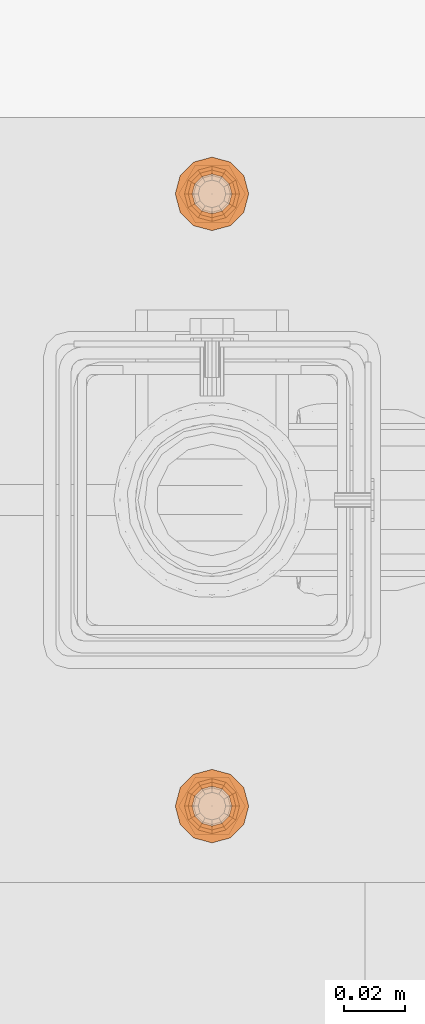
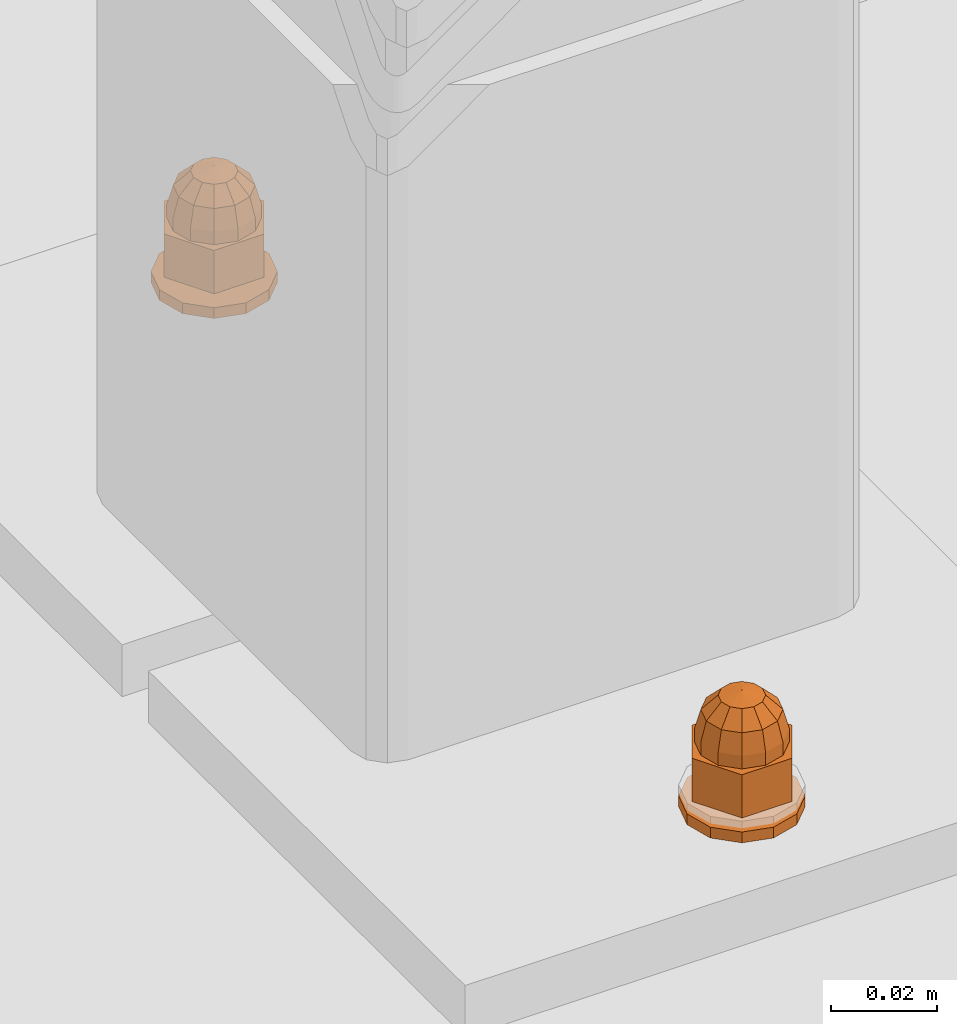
# One storey, part 132 of 162: 4 proxies.
"""IFC2X3 building model written with IfcOpenShell, lengths in millimetres."""

import ifcopenshell
import ifcopenshell.guid

model = None  # the IFC model being written
_history = None  # IfcOwnerHistory: only IFC2X3 demands one
_inside = {}  # id of a spatial element -> (the spatial element, [elements in it])
_under = {}  # id of a project, library or spatial element -> (it, [spatial elements below it])
_declared = {}  # id of a project -> (the project, [libraries it declares])
_typed = {}  # id of a type object -> (the type object, [elements of that type])
_made_of = {}  # id of a material, layer set ... -> (it, [elements and type objects made of it])


def new_model(schema):
    """Start an empty IFC model of exactly this schema.

    Asked for "IFC4X3", IfcOpenShell would pick the latest addendum, in which some entities
    have other attributes; the version numbers below select the first issue.
    IFC2X3 requires an IfcOwnerHistory on every rooted entity: one is made here for all.
    """
    global model, _history
    if schema == "IFC4X3":
        model = ifcopenshell.file(schema_version=(4, 3, 0, 0))
    else:
        model = ifcopenshell.file(schema=schema)
    _inside.clear()
    _under.clear()
    _declared.clear()
    _typed.clear()
    _made_of.clear()
    _history = None
    if model.schema == "IFC2X3":
        org = make("IfcOrganization", Name="unknown")
        user = make(
            "IfcPersonAndOrganization",
            ThePerson=make("IfcPerson", FamilyName="unknown"),
            TheOrganization=org,
        )
        app = make(
            "IfcApplication",
            ApplicationDeveloper=org,
            Version="unknown",
            ApplicationFullName="unknown",
            ApplicationIdentifier="unknown",
        )
        _history = make(
            "IfcOwnerHistory",
            OwningUser=user,
            OwningApplication=app,
            ChangeAction="ADDED",
            CreationDate=0,
        )
    return model


def make(cls, **values):
    """One entity of the class cls with the attributes given. An attribute that is None is left unset."""
    return model.create_entity(
        cls, **{name: value for name, value in values.items() if value is not None}
    )


def entity(cls, *values):
    """Any entity or typed value of the class cls, its attributes in the order of the schema. None: left unset."""
    e = model.create_entity(cls)
    for i, value in enumerate(values):
        if value is not None:
            e[i] = value
    return e


def rooted(cls, **values):
    """An entity with a GlobalId (a new one), such as an element, a storey or a relation."""
    return make(cls, GlobalId=ifcopenshell.guid.new(), OwnerHistory=_history, **values)


def si_unit(unit_type, name, prefix=None):
    """IfcSIUnit, for example si_unit("LENGTHUNIT", "METRE", prefix="MILLI")."""
    return make("IfcSIUnit", UnitType=unit_type, Prefix=prefix, Name=name)


def converted_unit(unit_type, name, factor, base, dimensions=None, offset=None):
    """IfcConversionBasedUnit, such as the inch: factor (a typed value) times the base unit."""
    return make(
        "IfcConversionBasedUnit"
        if offset is None
        else "IfcConversionBasedUnitWithOffset",
        ConversionOffset=offset,
        Dimensions=None
        if dimensions is None
        else entity("IfcDimensionalExponents", *dimensions),
        UnitType=unit_type,
        Name=name,
        ConversionFactor=make(
            "IfcMeasureWithUnit", ValueComponent=factor, UnitComponent=base
        ),
    )


def assignment(units):
    """IfcUnitAssignment: the units of a project."""
    return None if units is None else make("IfcUnitAssignment", Units=units)


def point(xyz):
    """IfcCartesianPoint."""
    return None if xyz is None else make("IfcCartesianPoint", Coordinates=xyz)


def direction(xyz):
    """IfcDirection."""
    return None if xyz is None else make("IfcDirection", DirectionRatios=xyz)


def frame(location, z_axis=None, x_axis=None):
    """IfcAxis2Placement3D, a coordinate frame: its origin and axes. An axis left out is left unset."""
    return make(
        "IfcAxis2Placement3D",
        Location=point(location),
        Axis=direction(z_axis),
        RefDirection=direction(x_axis),
    )


def origin_with_axes():
    """The frame at (0, 0, 0) with the z axis (0, 0, 1) and the x axis (1, 0, 0) written out."""
    return frame((0.0, 0.0, 0.0), z_axis=(0.0, 0.0, 1.0), x_axis=(1.0, 0.0, 0.0))


def place(relative_to, where):
    """IfcLocalPlacement: puts the frame where relative to a parent placement (None: the world)."""
    return make(
        "IfcLocalPlacement", PlacementRelTo=relative_to, RelativePlacement=where
    )


def context(
    kind, dimensions, precision=None, world=None, true_north=None, identifier=None
):
    """IfcGeometricRepresentationContext, for example the 3D "Model" context."""
    return make(
        "IfcGeometricRepresentationContext",
        ContextIdentifier=identifier,
        ContextType=kind,
        CoordinateSpaceDimension=dimensions,
        Precision=precision,
        WorldCoordinateSystem=world,
        TrueNorth=true_north,
    )


def project(units=None, contexts=None):
    """IfcProject with its units and contexts."""
    return rooted(
        "IfcProject",
        Name="project",
        RepresentationContexts=contexts,
        UnitsInContext=assignment(units),
    )


def spatial(cls, under=None, at=None, **own):
    """A site, building, storey or space (cls), placed at a placement, below another one or the project."""
    s = rooted(cls, ObjectPlacement=at, **own)
    if under is not None:
        _under.setdefault(under.id(), (under, []))[1].append(s)
    return s


def faces_of(points, faces, orient=None, outer=None):
    """IfcFace entities. A face is a list of loops; a loop is a list of indices into points, from 0.

    orient and outer hold one flag for each loop. By default every Orientation is true, the
    first loop of a face is its IfcFaceOuterBound and the others are IfcFaceBound.
    """
    made = []
    for i, loops in enumerate(faces):
        bounds = []
        for j, loop in enumerate(loops):
            is_outer = j == 0 if outer is None else outer[i][j]
            bounds.append(
                make(
                    "IfcFaceOuterBound" if is_outer else "IfcFaceBound",
                    Bound=make("IfcPolyLoop", Polygon=[points[k] for k in loop]),
                    Orientation=True if orient is None else orient[i][j],
                )
            )
        made.append(make("IfcFace", Bounds=bounds))
    return made


def faceted_brep(points, faces, orient=None, outer=None, voids=None):
    """IfcFacetedBrep: a solid bounded by flat faces; with voids (closed shells), ...WithVoids."""
    shared = [point(p) for p in points]
    hull = make("IfcClosedShell", CfsFaces=faces_of(shared, faces, orient, outer))
    if voids is None:
        return make("IfcFacetedBrep", Outer=hull)
    return make(
        "IfcFacetedBrepWithVoids",
        Outer=hull,
        Voids=[
            make(cls, CfsFaces=faces_of(shared, fs, o, b)) for cls, fs, o, b in voids
        ],
    )


def shape(context_of_items, identifier, shape_type, items):
    """IfcShapeRepresentation: the items that make up one representation, for example the "Body"."""
    return make(
        "IfcShapeRepresentation",
        ContextOfItems=context_of_items,
        RepresentationIdentifier=identifier,
        RepresentationType=shape_type,
        Items=items,
    )


def material(Name=None, Category=None):
    """IfcMaterial."""
    return make("IfcMaterial", Name=Name, Category=Category)


def made_of(thing, what):
    """Note that an element or type object is made of a material, layer set ...; save() writes the relation."""
    if what is not None:
        _made_of.setdefault(what.id(), (what, []))[1].append(thing)
    return thing


def element(
    cls,
    number,
    at=None,
    inside=None,
    cuts=None,
    type_object=None,
    material=None,
    context=None,
    identifier="Body",
    shape_type=None,
    held_by="IfcProductDefinitionShape",
    body=None,
    shapes=None,
    **own,
):
    """One element of the class cls, such as IfcWall. Its Tag is "e" and its number.

    at: its placement. inside: the storey or other place that contains it. cuts: it is an
    opening in that element (IfcRelVoidsElement). A single representation is given by context,
    identifier, shape_type and body (its items); several are given by shapes. held_by: the class
    of the entity that holds the representations. save() writes the other relations.
    """
    e = rooted(cls, Tag="e%d" % number, ObjectPlacement=at, **own)
    if body is not None:
        shapes = [shape(context, identifier, shape_type, body)]
    if shapes is not None:
        e.Representation = make(held_by, Representations=shapes)
    if inside is not None:
        _inside.setdefault(inside.id(), (inside, []))[1].append(e)
    if cuts is not None:
        rooted(
            "IfcRelVoidsElement", RelatingBuildingElement=cuts, RelatedOpeningElement=e
        )
    if type_object is not None:
        _typed.setdefault(type_object.id(), (type_object, []))[1].append(e)
    return made_of(e, material)


def aggregate(whole, parts):
    """IfcRelAggregates: a whole, such as a stair, and the parts it consists of."""
    return rooted("IfcRelAggregates", RelatingObject=whole, RelatedObjects=parts)


def save(model, path):
    """Write the relations noted so far, then the file.

    IfcRelAggregates (storeys below a building ...), IfcRelContainedInSpatialStructure (elements
    in a storey), IfcRelDefinesByType, IfcRelAssociatesMaterial and IfcRelDeclares: one each for
    every whole, place, type object, material and project.
    """
    for whole, parts in _under.values():
        aggregate(whole, parts)
    for where, things in _inside.values():
        rooted(
            "IfcRelContainedInSpatialStructure",
            RelatedElements=things,
            RelatingStructure=where,
        )
    for kind, things in _typed.values():
        rooted("IfcRelDefinesByType", RelatedObjects=things, RelatingType=kind)
    for what, things in _made_of.values():
        rooted("IfcRelAssociatesMaterial", RelatedObjects=things, RelatingMaterial=what)
    for by, libraries in _declared.values():
        rooted("IfcRelDeclares", RelatingContext=by, RelatedDefinitions=libraries)
    model.write(path)


model = new_model("IFC2X3")

# Units and contexts
model_context = context("Model", 3, precision=1e-09, world=origin_with_axes())
ifc_project = project(units=[si_unit("LENGTHUNIT", "METRE", prefix="MILLI"), si_unit("AREAUNIT", "SQUARE_METRE"), si_unit("VOLUMEUNIT", "CUBIC_METRE"), converted_unit("PLANEANGLEUNIT", "DEGREE", entity("IfcPlaneAngleMeasure", 0.01745329), si_unit("PLANEANGLEUNIT", "RADIAN"), dimensions=[0, 0, 0, 0, 0, 0, 0])], contexts=[model_context])

# Site, building, storey
site_placement = place(None, origin_with_axes())
site = spatial("IfcSite", under=ifc_project, at=site_placement, Name="Hermannstra?e 1a, 60318 Frankfurt", CompositionType="ELEMENT")
building_placement = place(site_placement, origin_with_axes())
building = spatial("IfcBuilding", under=site, at=building_placement, Name="Struktur 1", CompositionType="ELEMENT")
storey_placement = place(building_placement, origin_with_axes())
storey = spatial("IfcBuildingStorey", under=building, at=storey_placement, Name="Default Storey", CompositionType="ELEMENT", Elevation=0.0)

# Proxies
ifc_material = material(Name="Kein")
proxy_1_placement = place(None, origin_with_axes())
element("IfcBuildingElementProxy", 1, at=proxy_1_placement, inside=storey, material=ifc_material, ObjectType="-", context=model_context, shape_type="Brep", body=[
    faceted_brep([(5473.30936482, 1624.609373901, -93.0), (5473.30936482, 1624.609373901, -83.0), (5476.30936482, 1625.413221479, -83.0), (5476.30936482, 1625.413221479, -93.0), (5478.505517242, 1627.609373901, -83.0), (5478.505517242, 1627.609373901, -93.0), (5470.30936482, 1625.413221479, -93.0), (5470.30936482, 1625.413221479, -83.0), (5467.836159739, 1621.129504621, -93.0), (5462.362954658, 1630.609373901, -93.0), (5467.836159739, 1640.089243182, -93.0), (5478.7825699, 1640.089243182, -93.0), (5484.255774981, 1630.609373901, -93.0), (5478.7825699, 1621.129504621, -93.0), (5468.113212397, 1627.609373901, -93.0), (5479.30936482, 1630.609373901, -93.0), (5478.505517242, 1633.609373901, -93.0), (5476.30936482, 1635.805526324, -93.0), (5473.30936482, 1636.609373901, -93.0), (5470.30936482, 1635.805526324, -93.0), (5468.113212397, 1633.609373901, -93.0), (5467.30936482, 1630.609373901, -93.0), (5462.362954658, 1630.609373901, -83.0), (5467.836159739, 1621.129504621, -83.0), (5478.7825699, 1621.129504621, -83.0), (5484.255774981, 1630.609373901, -83.0), (5478.7825699, 1640.089243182, -83.0), (5467.836159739, 1640.089243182, -83.0), (5468.113212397, 1627.609373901, -83.0), (5467.30936482, 1630.609373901, -83.0), (5468.113212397, 1633.609373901, -83.0), (5470.30936482, 1635.805526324, -83.0), (5473.30936482, 1636.609373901, -83.0), (5476.30936482, 1635.805526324, -83.0), (5478.505517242, 1633.609373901, -83.0), (5479.30936482, 1630.609373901, -83.0)], [[[0, 1, 2, 3]], [[3, 2, 4, 5]], [[1, 0, 6, 7]], [[8, 9, 10, 11, 12, 13], [14, 6, 0, 3, 5, 15, 16, 17, 18, 19, 20, 21]], [[22, 23, 24, 25, 26, 27], [1, 7, 28, 29, 30, 31, 32, 33, 34, 35, 4, 2]], [[7, 6, 14, 28]], [[24, 23, 8, 13]], [[5, 4, 35, 15]], [[13, 12, 25, 24]], [[28, 14, 21, 29]], [[23, 22, 9, 8]], [[15, 35, 34, 16]], [[12, 11, 26, 25]], [[29, 21, 20, 30]], [[22, 27, 10, 9]], [[16, 34, 33, 17]], [[27, 26, 11, 10]], [[30, 20, 19, 31]], [[17, 33, 32, 18]], [[31, 19, 18, 32]]]),
    faceted_brep([(5464.30936482, 1630.609373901, -83.0), (5464.30936482, 1630.609373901, -80.0), (5465.515136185, 1635.109373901, -80.0), (5465.515136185, 1635.109373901, -83.0), (5465.515136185, 1626.109373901, -83.0), (5465.515136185, 1626.109373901, -80.0), (5477.80936482, 1622.815145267, -80.0), (5481.103593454, 1626.109373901, -80.0), (5482.30936482, 1630.609373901, -80.0), (5481.103593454, 1635.109373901, -80.0), (5477.80936482, 1638.403602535, -80.0), (5473.30936482, 1639.609373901, -80.0), (5468.80936482, 1638.403602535, -80.0), (5468.80936482, 1622.815145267, -80.0), (5473.30936482, 1621.609373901, -80.0), (5477.80936482, 1638.403602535, -83.0), (5481.103593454, 1635.109373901, -83.0), (5482.30936482, 1630.609373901, -83.0), (5481.103593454, 1626.109373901, -83.0), (5477.80936482, 1622.815145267, -83.0), (5473.30936482, 1621.609373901, -83.0), (5468.80936482, 1622.815145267, -83.0), (5468.80936482, 1638.403602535, -83.0), (5473.30936482, 1639.609373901, -83.0)], [[[0, 1, 2, 3]], [[1, 0, 4, 5]], [[6, 7, 8, 9, 10, 11, 12, 2, 1, 5, 13, 14]], [[15, 16, 17, 18, 19, 20, 21, 4, 0, 3, 22, 23]], [[3, 2, 12, 22]], [[5, 4, 21, 13]], [[22, 12, 11, 23]], [[13, 21, 20, 14]], [[7, 18, 17, 8]], [[19, 6, 14, 20]], [[18, 7, 6, 19]], [[23, 11, 10, 15]], [[8, 17, 16, 9]], [[15, 10, 9, 16]]]),
    faceted_brep([(5468.80936482, 1622.815145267, -80.0), (5469.412250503, 1623.859373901, -75.5), (5466.55936482, 1626.712259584, -75.5), (5465.515136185, 1626.109373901, -80.0), (5477.80936482, 1638.403602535, -80.0), (5481.103593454, 1635.109373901, -80.0), (5482.30936482, 1630.609373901, -80.0), (5481.103593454, 1626.109373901, -80.0), (5477.80936482, 1622.815145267, -80.0), (5473.30936482, 1621.609373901, -80.0), (5464.30936482, 1630.609373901, -80.0), (5465.515136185, 1635.109373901, -80.0), (5468.80936482, 1638.403602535, -80.0), (5473.30936482, 1639.609373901, -80.0), (5465.515136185, 1630.609373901, -75.5), (5473.30936482, 1622.815145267, -75.5), (5473.30936482, 1626.109373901, -72.205771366), (5471.05936482, 1626.712259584, -72.205771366), (5466.55936482, 1634.506488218, -75.5), (5469.412250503, 1628.359373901, -72.205771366), (5477.206479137, 1623.859373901, -75.5), (5475.55936482, 1626.712259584, -72.205771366), (5468.80936482, 1630.609373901, -72.205771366), (5473.30936482, 1630.609373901, -71.0), (5480.05936482, 1626.712259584, -75.5), (5477.206479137, 1628.359373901, -72.205771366), (5481.103593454, 1630.609373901, -75.5), (5469.412250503, 1637.359373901, -75.5), (5469.412250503, 1632.859373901, -72.205771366), (5477.80936482, 1630.609373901, -72.205771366), (5480.05936482, 1634.506488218, -75.5), (5477.206479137, 1632.859373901, -72.205771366), (5473.30936482, 1638.403602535, -75.5), (5471.05936482, 1634.506488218, -72.205771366), (5477.206479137, 1637.359373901, -75.5), (5475.55936482, 1634.506488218, -72.205771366), (5473.30936482, 1635.109373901, -72.205771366)], [[[0, 1, 2, 3]], [[4, 5, 6, 7, 8, 9, 0, 3, 10, 11, 12, 13]], [[3, 2, 14, 10]], [[15, 16, 17, 1]], [[1, 0, 9, 15]], [[10, 14, 18, 11]], [[1, 17, 19, 2]], [[16, 15, 20, 21]], [[2, 19, 22, 14]], [[23, 17, 16]], [[24, 25, 21, 20]], [[23, 16, 21]], [[24, 7, 6, 26]], [[20, 8, 7, 24]], [[15, 9, 8, 20]], [[11, 18, 27, 12]], [[14, 22, 28, 18]], [[23, 19, 17]], [[26, 29, 25, 24]], [[23, 21, 25]], [[23, 22, 19]], [[26, 6, 5, 30]], [[29, 26, 30, 31]], [[23, 25, 29]], [[12, 27, 32, 13]], [[18, 28, 33, 27]], [[23, 28, 22]], [[23, 29, 31]], [[23, 33, 28]], [[30, 5, 4, 34]], [[31, 30, 34, 35]], [[23, 31, 35]], [[13, 32, 34, 4]], [[27, 33, 36, 32]], [[23, 36, 33]], [[23, 35, 36]], [[35, 34, 32, 36]]]),
])
proxy_2_placement = place(None, origin_with_axes())
element("IfcBuildingElementProxy", 2, at=proxy_2_placement, inside=storey, material=ifc_material, ObjectType="-", context=model_context, shape_type="Brep", body=[
    faceted_brep([(5479.30936482, 1641.001678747, -95.5), (5479.30936482, 1641.001678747, -98.0), (5473.30936482, 1642.609373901, -98.0), (5473.30936482, 1642.609373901, -95.5), (5483.701669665, 1636.609373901, -98.0), (5485.30936482, 1630.609373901, -98.0), (5483.701669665, 1624.609373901, -98.0), (5479.30936482, 1620.217069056, -98.0), (5473.30936482, 1618.609373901, -98.0), (5467.30936482, 1620.217069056, -98.0), (5462.917059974, 1624.609373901, -98.0), (5461.30936482, 1630.609373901, -98.0), (5462.917059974, 1636.609373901, -98.0), (5467.30936482, 1641.001678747, -98.0), (5478.938529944, 1633.859373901, -98.0), (5476.55936482, 1636.238539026, -98.0), (5473.30936482, 1637.109373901, -98.0), (5470.05936482, 1636.238539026, -98.0), (5467.680199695, 1633.859373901, -98.0), (5466.80936482, 1630.609373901, -98.0), (5467.680199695, 1627.359373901, -98.0), (5470.05936482, 1624.980208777, -98.0), (5473.30936482, 1624.109373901, -98.0), (5476.55936482, 1624.980208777, -98.0), (5478.938529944, 1627.359373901, -98.0), (5479.80936482, 1630.609373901, -98.0), (5473.30936482, 1637.109373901, -95.5), (5476.55936482, 1636.238539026, -95.5), (5483.701669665, 1636.609373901, -95.5), (5467.30936482, 1641.001678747, -95.5), (5462.917059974, 1636.609373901, -95.5), (5461.30936482, 1630.609373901, -95.5), (5462.917059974, 1624.609373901, -95.5), (5467.30936482, 1620.217069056, -95.5), (5473.30936482, 1618.609373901, -95.5), (5479.30936482, 1620.217069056, -95.5), (5483.701669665, 1624.609373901, -95.5), (5485.30936482, 1630.609373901, -95.5), (5478.938529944, 1633.859373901, -95.5), (5479.80936482, 1630.609373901, -95.5), (5478.938529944, 1627.359373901, -95.5), (5476.55936482, 1624.980208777, -95.5), (5473.30936482, 1624.109373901, -95.5), (5470.05936482, 1624.980208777, -95.5), (5467.680199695, 1627.359373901, -95.5), (5466.80936482, 1630.609373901, -95.5), (5467.680199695, 1633.859373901, -95.5), (5470.05936482, 1636.238539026, -95.5)], [[[0, 1, 2, 3]], [[1, 4, 5, 6, 7, 8, 9, 10, 11, 12, 13, 2], [14, 15, 16, 17, 18, 19, 20, 21, 22, 23, 24, 25]], [[26, 16, 15, 27]], [[28, 0, 3, 29, 30, 31, 32, 33, 34, 35, 36, 37], [26, 27, 38, 39, 40, 41, 42, 43, 44, 45, 46, 47]], [[1, 0, 28, 4]], [[16, 26, 47, 17]], [[3, 2, 13, 29]], [[27, 15, 14, 38]], [[4, 28, 37, 5]], [[17, 47, 46, 18]], [[29, 13, 12, 30]], [[38, 14, 25, 39]], [[18, 46, 45, 19]], [[5, 37, 36, 6]], [[39, 25, 24, 40]], [[30, 12, 11, 31]], [[19, 45, 44, 20]], [[6, 36, 35, 7]], [[40, 24, 23, 41]], [[31, 11, 10, 32]], [[20, 44, 43, 21]], [[7, 35, 34, 8]], [[41, 23, 22, 42]], [[32, 10, 9, 33]], [[21, 43, 42, 22]], [[8, 34, 33, 9]]]),
])
proxy_3_placement = place(None, origin_with_axes())
element("IfcBuildingElementProxy", 3, at=proxy_3_placement, inside=storey, material=ifc_material, ObjectType="-", context=model_context, shape_type="Brep", body=[
    faceted_brep([(5473.30936482, 1424.609373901, -93.0), (5473.30936482, 1424.609373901, -83.0), (5476.30936482, 1425.413221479, -83.0), (5476.30936482, 1425.413221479, -93.0), (5478.505517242, 1427.609373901, -83.0), (5478.505517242, 1427.609373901, -93.0), (5470.30936482, 1425.413221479, -93.0), (5470.30936482, 1425.413221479, -83.0), (5467.836159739, 1421.129504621, -93.0), (5462.362954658, 1430.609373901, -93.0), (5467.836159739, 1440.089243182, -93.0), (5478.7825699, 1440.089243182, -93.0), (5484.255774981, 1430.609373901, -93.0), (5478.7825699, 1421.129504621, -93.0), (5468.113212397, 1427.609373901, -93.0), (5479.30936482, 1430.609373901, -93.0), (5478.505517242, 1433.609373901, -93.0), (5476.30936482, 1435.805526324, -93.0), (5473.30936482, 1436.609373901, -93.0), (5470.30936482, 1435.805526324, -93.0), (5468.113212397, 1433.609373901, -93.0), (5467.30936482, 1430.609373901, -93.0), (5462.362954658, 1430.609373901, -83.0), (5467.836159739, 1421.129504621, -83.0), (5478.7825699, 1421.129504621, -83.0), (5484.255774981, 1430.609373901, -83.0), (5478.7825699, 1440.089243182, -83.0), (5467.836159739, 1440.089243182, -83.0), (5468.113212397, 1427.609373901, -83.0), (5467.30936482, 1430.609373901, -83.0), (5468.113212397, 1433.609373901, -83.0), (5470.30936482, 1435.805526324, -83.0), (5473.30936482, 1436.609373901, -83.0), (5476.30936482, 1435.805526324, -83.0), (5478.505517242, 1433.609373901, -83.0), (5479.30936482, 1430.609373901, -83.0)], [[[0, 1, 2, 3]], [[3, 2, 4, 5]], [[1, 0, 6, 7]], [[8, 9, 10, 11, 12, 13], [14, 6, 0, 3, 5, 15, 16, 17, 18, 19, 20, 21]], [[22, 23, 24, 25, 26, 27], [1, 7, 28, 29, 30, 31, 32, 33, 34, 35, 4, 2]], [[7, 6, 14, 28]], [[24, 23, 8, 13]], [[5, 4, 35, 15]], [[13, 12, 25, 24]], [[28, 14, 21, 29]], [[23, 22, 9, 8]], [[15, 35, 34, 16]], [[12, 11, 26, 25]], [[29, 21, 20, 30]], [[22, 27, 10, 9]], [[16, 34, 33, 17]], [[27, 26, 11, 10]], [[30, 20, 19, 31]], [[17, 33, 32, 18]], [[31, 19, 18, 32]]]),
    faceted_brep([(5464.30936482, 1430.609373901, -83.0), (5464.30936482, 1430.609373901, -80.0), (5465.515136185, 1435.109373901, -80.0), (5465.515136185, 1435.109373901, -83.0), (5465.515136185, 1426.109373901, -83.0), (5465.515136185, 1426.109373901, -80.0), (5477.80936482, 1422.815145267, -80.0), (5481.103593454, 1426.109373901, -80.0), (5482.30936482, 1430.609373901, -80.0), (5481.103593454, 1435.109373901, -80.0), (5477.80936482, 1438.403602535, -80.0), (5473.30936482, 1439.609373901, -80.0), (5468.80936482, 1438.403602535, -80.0), (5468.80936482, 1422.815145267, -80.0), (5473.30936482, 1421.609373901, -80.0), (5477.80936482, 1438.403602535, -83.0), (5481.103593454, 1435.109373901, -83.0), (5482.30936482, 1430.609373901, -83.0), (5481.103593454, 1426.109373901, -83.0), (5477.80936482, 1422.815145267, -83.0), (5473.30936482, 1421.609373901, -83.0), (5468.80936482, 1422.815145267, -83.0), (5468.80936482, 1438.403602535, -83.0), (5473.30936482, 1439.609373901, -83.0)], [[[0, 1, 2, 3]], [[1, 0, 4, 5]], [[6, 7, 8, 9, 10, 11, 12, 2, 1, 5, 13, 14]], [[15, 16, 17, 18, 19, 20, 21, 4, 0, 3, 22, 23]], [[3, 2, 12, 22]], [[5, 4, 21, 13]], [[22, 12, 11, 23]], [[13, 21, 20, 14]], [[7, 18, 17, 8]], [[19, 6, 14, 20]], [[18, 7, 6, 19]], [[23, 11, 10, 15]], [[8, 17, 16, 9]], [[15, 10, 9, 16]]]),
    faceted_brep([(5468.80936482, 1422.815145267, -80.0), (5469.412250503, 1423.859373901, -75.5), (5466.55936482, 1426.712259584, -75.5), (5465.515136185, 1426.109373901, -80.0), (5477.80936482, 1438.403602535, -80.0), (5481.103593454, 1435.109373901, -80.0), (5482.30936482, 1430.609373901, -80.0), (5481.103593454, 1426.109373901, -80.0), (5477.80936482, 1422.815145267, -80.0), (5473.30936482, 1421.609373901, -80.0), (5464.30936482, 1430.609373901, -80.0), (5465.515136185, 1435.109373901, -80.0), (5468.80936482, 1438.403602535, -80.0), (5473.30936482, 1439.609373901, -80.0), (5465.515136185, 1430.609373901, -75.5), (5473.30936482, 1422.815145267, -75.5), (5473.30936482, 1426.109373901, -72.205771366), (5471.05936482, 1426.712259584, -72.205771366), (5466.55936482, 1434.506488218, -75.5), (5469.412250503, 1428.359373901, -72.205771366), (5477.206479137, 1423.859373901, -75.5), (5475.55936482, 1426.712259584, -72.205771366), (5468.80936482, 1430.609373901, -72.205771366), (5473.30936482, 1430.609373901, -71.0), (5480.05936482, 1426.712259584, -75.5), (5477.206479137, 1428.359373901, -72.205771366), (5481.103593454, 1430.609373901, -75.5), (5469.412250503, 1437.359373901, -75.5), (5469.412250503, 1432.859373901, -72.205771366), (5477.80936482, 1430.609373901, -72.205771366), (5480.05936482, 1434.506488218, -75.5), (5477.206479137, 1432.859373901, -72.205771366), (5473.30936482, 1438.403602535, -75.5), (5471.05936482, 1434.506488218, -72.205771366), (5477.206479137, 1437.359373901, -75.5), (5475.55936482, 1434.506488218, -72.205771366), (5473.30936482, 1435.109373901, -72.205771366)], [[[0, 1, 2, 3]], [[4, 5, 6, 7, 8, 9, 0, 3, 10, 11, 12, 13]], [[3, 2, 14, 10]], [[15, 16, 17, 1]], [[1, 0, 9, 15]], [[10, 14, 18, 11]], [[1, 17, 19, 2]], [[16, 15, 20, 21]], [[2, 19, 22, 14]], [[23, 17, 16]], [[24, 25, 21, 20]], [[23, 16, 21]], [[24, 7, 6, 26]], [[20, 8, 7, 24]], [[15, 9, 8, 20]], [[11, 18, 27, 12]], [[14, 22, 28, 18]], [[23, 19, 17]], [[26, 29, 25, 24]], [[23, 21, 25]], [[23, 22, 19]], [[26, 6, 5, 30]], [[29, 26, 30, 31]], [[23, 25, 29]], [[12, 27, 32, 13]], [[18, 28, 33, 27]], [[23, 28, 22]], [[23, 29, 31]], [[23, 33, 28]], [[30, 5, 4, 34]], [[31, 30, 34, 35]], [[23, 31, 35]], [[13, 32, 34, 4]], [[27, 33, 36, 32]], [[23, 36, 33]], [[23, 35, 36]], [[35, 34, 32, 36]]]),
])
proxy_4_placement = place(None, origin_with_axes())
element("IfcBuildingElementProxy", 4, at=proxy_4_placement, inside=storey, material=ifc_material, ObjectType="-", context=model_context, shape_type="Brep", body=[
    faceted_brep([(5479.30936482, 1441.001678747, -95.5), (5479.30936482, 1441.001678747, -98.0), (5473.30936482, 1442.609373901, -98.0), (5473.30936482, 1442.609373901, -95.5), (5483.701669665, 1436.609373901, -98.0), (5485.30936482, 1430.609373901, -98.0), (5483.701669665, 1424.609373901, -98.0), (5479.30936482, 1420.217069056, -98.0), (5473.30936482, 1418.609373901, -98.0), (5467.30936482, 1420.217069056, -98.0), (5462.917059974, 1424.609373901, -98.0), (5461.30936482, 1430.609373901, -98.0), (5462.917059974, 1436.609373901, -98.0), (5467.30936482, 1441.001678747, -98.0), (5478.938529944, 1433.859373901, -98.0), (5476.55936482, 1436.238539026, -98.0), (5473.30936482, 1437.109373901, -98.0), (5470.05936482, 1436.238539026, -98.0), (5467.680199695, 1433.859373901, -98.0), (5466.80936482, 1430.609373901, -98.0), (5467.680199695, 1427.359373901, -98.0), (5470.05936482, 1424.980208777, -98.0), (5473.30936482, 1424.109373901, -98.0), (5476.55936482, 1424.980208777, -98.0), (5478.938529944, 1427.359373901, -98.0), (5479.80936482, 1430.609373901, -98.0), (5473.30936482, 1437.109373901, -95.5), (5476.55936482, 1436.238539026, -95.5), (5483.701669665, 1436.609373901, -95.5), (5467.30936482, 1441.001678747, -95.5), (5462.917059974, 1436.609373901, -95.5), (5461.30936482, 1430.609373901, -95.5), (5462.917059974, 1424.609373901, -95.5), (5467.30936482, 1420.217069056, -95.5), (5473.30936482, 1418.609373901, -95.5), (5479.30936482, 1420.217069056, -95.5), (5483.701669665, 1424.609373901, -95.5), (5485.30936482, 1430.609373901, -95.5), (5478.938529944, 1433.859373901, -95.5), (5479.80936482, 1430.609373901, -95.5), (5478.938529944, 1427.359373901, -95.5), (5476.55936482, 1424.980208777, -95.5), (5473.30936482, 1424.109373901, -95.5), (5470.05936482, 1424.980208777, -95.5), (5467.680199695, 1427.359373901, -95.5), (5466.80936482, 1430.609373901, -95.5), (5467.680199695, 1433.859373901, -95.5), (5470.05936482, 1436.238539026, -95.5)], [[[0, 1, 2, 3]], [[1, 4, 5, 6, 7, 8, 9, 10, 11, 12, 13, 2], [14, 15, 16, 17, 18, 19, 20, 21, 22, 23, 24, 25]], [[26, 16, 15, 27]], [[28, 0, 3, 29, 30, 31, 32, 33, 34, 35, 36, 37], [26, 27, 38, 39, 40, 41, 42, 43, 44, 45, 46, 47]], [[1, 0, 28, 4]], [[16, 26, 47, 17]], [[3, 2, 13, 29]], [[27, 15, 14, 38]], [[4, 28, 37, 5]], [[17, 47, 46, 18]], [[29, 13, 12, 30]], [[38, 14, 25, 39]], [[18, 46, 45, 19]], [[5, 37, 36, 6]], [[39, 25, 24, 40]], [[30, 12, 11, 31]], [[19, 45, 44, 20]], [[6, 36, 35, 7]], [[40, 24, 23, 41]], [[31, 11, 10, 32]], [[20, 44, 43, 21]], [[7, 35, 34, 8]], [[41, 23, 22, 42]], [[32, 10, 9, 33]], [[21, 43, 42, 22]], [[8, 34, 33, 9]]]),
])

save(model, "model.ifc")
